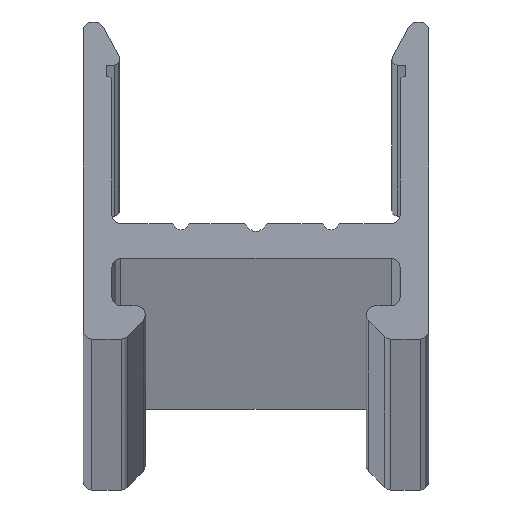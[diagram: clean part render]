
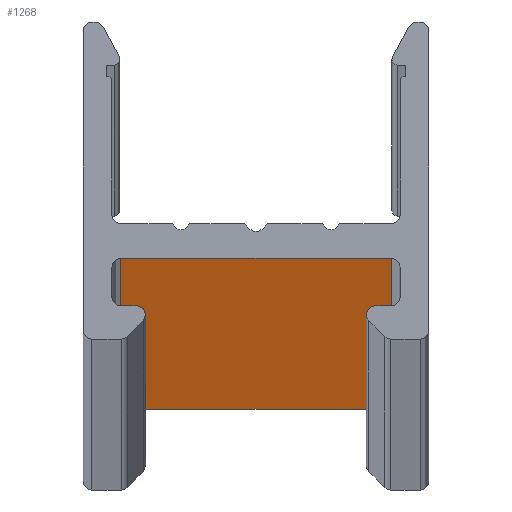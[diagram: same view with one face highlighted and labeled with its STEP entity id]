
A CAD part, top view. The second image highlights one B-rep face of the part: STEP entity #1268.
In plain terms, the highlighted planar face has unit normal (0, -1, 0).
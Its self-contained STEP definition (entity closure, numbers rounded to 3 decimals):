
#2 = EDGE_CURVE ( 'NONE', #1940, #1344, #1271, .T. ) ;
#25 = DIRECTION ( 'NONE',  ( 0., 0., -1. ) ) ;
#49 = PLANE ( 'NONE',  #1011 ) ;
#66 = EDGE_CURVE ( 'NONE', #247, #1344, #654, .T. ) ;
#247 = VERTEX_POINT ( 'NONE', #1061 ) ;
#354 = CARTESIAN_POINT ( 'NONE',  ( -4.7, 2.8, 1500. ) ) ;
#369 = CARTESIAN_POINT ( 'NONE',  ( -4.7, 2.8, 1500. ) ) ;
#380 = VECTOR ( 'NONE', #802, 1000. ) ;
#404 = CARTESIAN_POINT ( 'NONE',  ( 4.7, 2.8, -1500. ) ) ;
#654 = LINE ( 'NONE', #1282, #380 ) ;
#678 = CARTESIAN_POINT ( 'NONE',  ( -4.7, 2.8, 1500. ) ) ;
#759 = EDGE_CURVE ( 'NONE', #794, #1940, #1769, .T. ) ;
#794 = VERTEX_POINT ( 'NONE', #828 ) ;
#802 = DIRECTION ( 'NONE',  ( 1., 0., 0. ) ) ;
#828 = CARTESIAN_POINT ( 'NONE',  ( -4.7, 2.8, 1500. ) ) ;
#864 = ORIENTED_EDGE ( 'NONE', *, *, #2003, .T. ) ;
#909 = ORIENTED_EDGE ( 'NONE', *, *, #66, .T. ) ;
#982 = DIRECTION ( 'NONE',  ( 1., 0., 0. ) ) ;
#1011 = AXIS2_PLACEMENT_3D ( 'NONE', #678, #1734, #1306 ) ;
#1061 = CARTESIAN_POINT ( 'NONE',  ( -4.7, 2.8, -1500. ) ) ;
#1236 = CARTESIAN_POINT ( 'NONE',  ( 4.7, 2.8, 1500. ) ) ;
#1268 = ADVANCED_FACE ( 'NONE', ( #1455 ), #49, .F. ) ;
#1271 = LINE ( 'NONE', #1890, #1655 ) ;
#1282 = CARTESIAN_POINT ( 'NONE',  ( -4.7, 2.8, -1500. ) ) ;
#1284 = EDGE_LOOP ( 'NONE', ( #909, #1363, #1362, #864 ) ) ;
#1305 = VECTOR ( 'NONE', #982, 1000. ) ;
#1306 = DIRECTION ( 'NONE',  ( 0., 0., 1. ) ) ;
#1344 = VERTEX_POINT ( 'NONE', #404 ) ;
#1362 = ORIENTED_EDGE ( 'NONE', *, *, #759, .F. ) ;
#1363 = ORIENTED_EDGE ( 'NONE', *, *, #2, .F. ) ;
#1455 = FACE_OUTER_BOUND ( 'NONE', #1284, .T. ) ;
#1476 = VECTOR ( 'NONE', #1611, 1000. ) ;
#1611 = DIRECTION ( 'NONE',  ( 0., 0., -1. ) ) ;
#1655 = VECTOR ( 'NONE', #25, 1000. ) ;
#1734 = DIRECTION ( 'NONE',  ( 0., 1., 0. ) ) ;
#1769 = LINE ( 'NONE', #369, #1305 ) ;
#1890 = CARTESIAN_POINT ( 'NONE',  ( 4.7, 2.8, 1500. ) ) ;
#1899 = LINE ( 'NONE', #354, #1476 ) ;
#1940 = VERTEX_POINT ( 'NONE', #1236 ) ;
#2003 = EDGE_CURVE ( 'NONE', #794, #247, #1899, .T. ) ;
